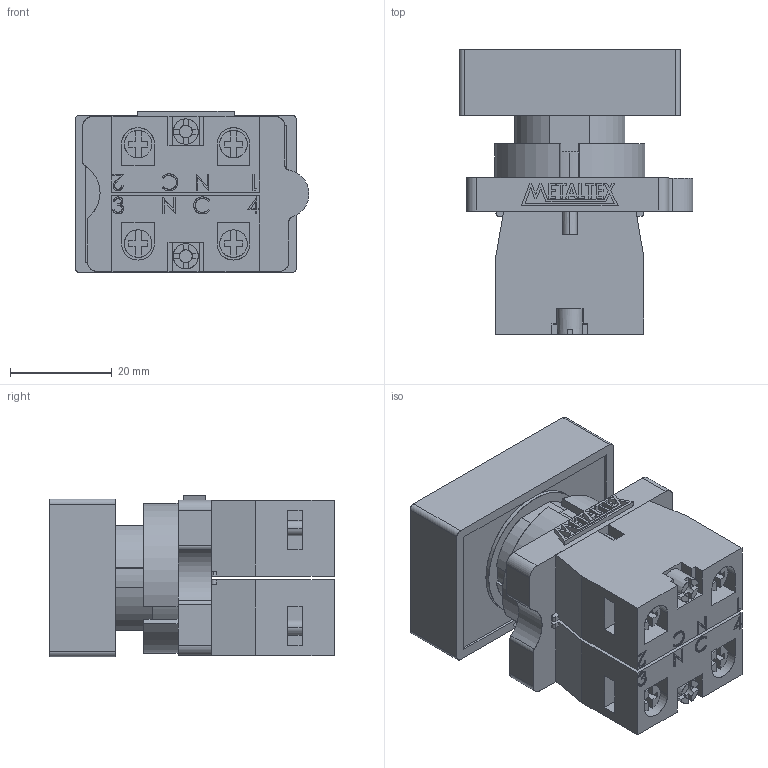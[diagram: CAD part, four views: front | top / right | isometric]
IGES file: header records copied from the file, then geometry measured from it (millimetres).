
Start section: SolidWorks IGES file using analytic representation for surfaces
Global section: file name: D:\X - Arquivos\PROEX\Empresas\P11 - METALTEX\01 - Produtos\IGES\Segunda remessa\P20BPL-1C.IGS; native system: SolidWorks 2012; preprocessor: SolidWorks 2012; author: Usuario; date: 180117.120130; units: millimetre
Bounding box: 45.94 x 56.1 x 31.75 mm (x, y, z)
Surface area: 26369.7 mm2 (no closed solid volume)
Topology: 0 solids, 0 shells, 565 faces, 5656 edges, 5656 vertices
Faces by surface type: bspline 462, revolution 103
